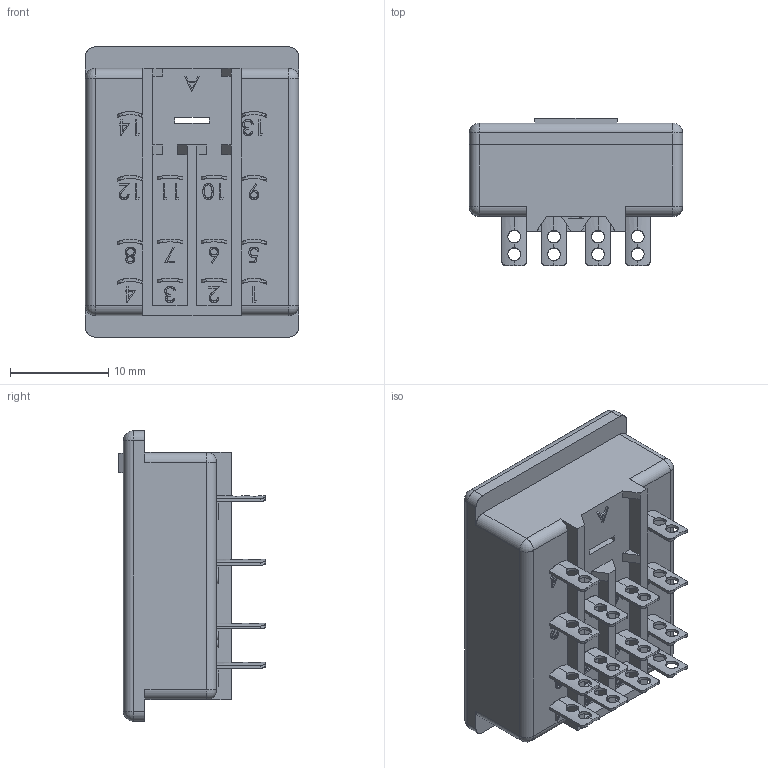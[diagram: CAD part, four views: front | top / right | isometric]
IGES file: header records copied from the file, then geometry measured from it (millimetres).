
Start section: SolidWorks IGES file using analytic representation for surfaces
Global section: file name: D:\X - Arquivos\PROEX\Empresas\P11 - METALTEX\01 - Produtos\IGES\7ª remessa\2ª etapa\MSO4T.IGS; native system: SolidWorks 2012; preprocessor: SolidWorks 2012; author: Usuario; date: 190912.140028; units: millimetre
Bounding box: 21.75 x 15 x 29.6 mm (x, y, z)
Surface area: 3353.8 mm2 (no closed solid volume)
Topology: 0 solids, 0 shells, 676 faces, 7170 edges, 7162 vertices
Faces by surface type: bspline 508, revolution 168
